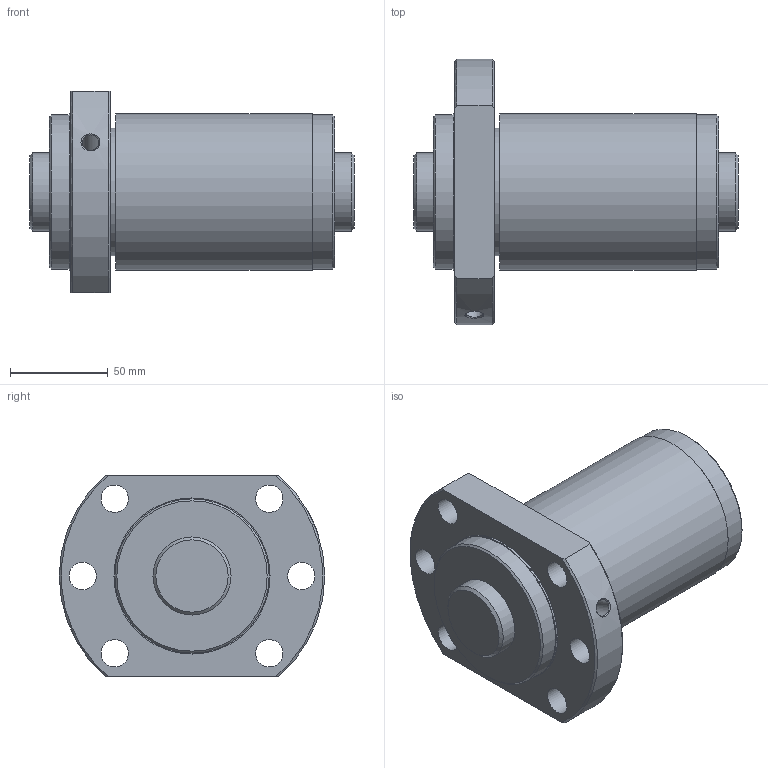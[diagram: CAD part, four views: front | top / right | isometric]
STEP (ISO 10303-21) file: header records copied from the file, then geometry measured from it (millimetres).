
FILE_DESCRIPTION(/* description */ ('STEP AP203'),/* implementation_level */ '2;1');
FILE_NAME(/* name */ 'SBK4040-5.6RRG0+166LC0(0000)',/* time_stamp */ '2024-05-28T11:20:25+02:00',/* author */ ('License CC BY-ND 4.0'),/* organization */ ('CADENAS'),/* preprocessor_version */ 'ST-DEVELOPER v19.3',/* originating_system */ 'PARTsolutions',/* authorisation */ ' ');
FILE_SCHEMA (('CONFIG_CONTROL_DESIGN'));
Length unit declared in the file: millimetre
Products named in the file (3): SBK4040-5.6RRG0+166LC0(0000); NRR000SBK4040-5.60Shaft; NRR000SBK4040-5.6Nut
Assembly tree (2 placements, depth 2):
  SBK4040-5.6RRG0+166LC0(0000)
    NRR000SBK4040-5.60Shaft
    NRR000SBK4040-5.6Nut
Bounding box: 166 x 136 x 103 mm (x, y, z)
Volume: 879990.2 mm3; surface area: 110797 mm2
Topology: 2 solids, 2 shells, 37 faces, 80 edges, 52 vertices
Faces by surface type: cylinder 16, plane 11, cone 10
Full cylindrical faces by diameter (mm): 8.566 x1, 14 x6, 40 x2, 65.44 x1, 79 x2, 80 x2
Entity records: 1020 total; most frequent: CARTESIAN_POINT 183, DIRECTION 168, ORIENTED_EDGE 114, AXIS2_PLACEMENT_3D 80, FACE_BOUND 77, EDGE_LOOP 76, EDGE_CURVE 57, VERTEX_POINT 50
